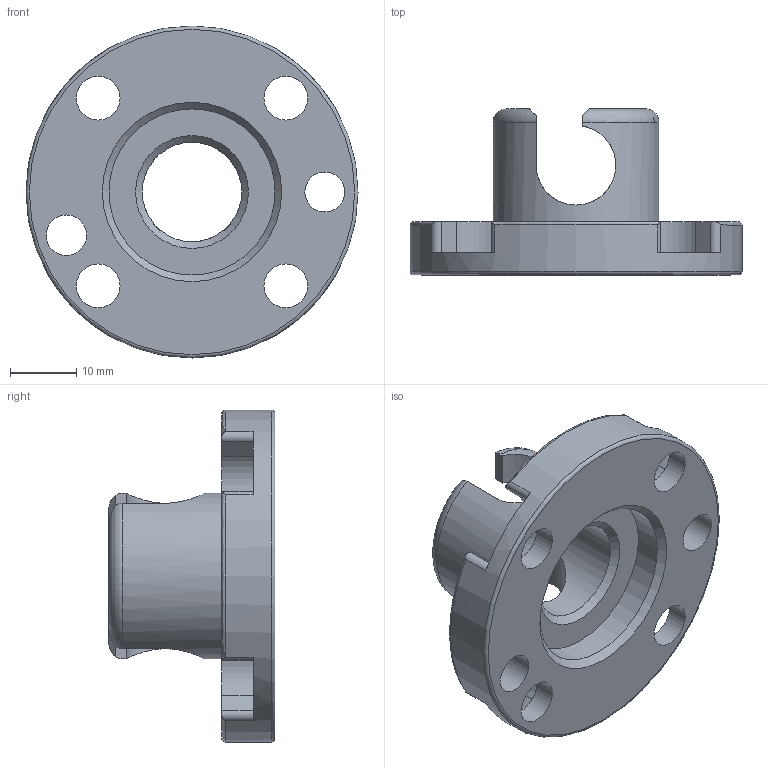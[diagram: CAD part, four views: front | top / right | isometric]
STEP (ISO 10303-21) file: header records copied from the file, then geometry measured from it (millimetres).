
FILE_DESCRIPTION(/* description */ (''),/* implementation_level */ '2;1');
FILE_NAME(/* name */ 'G-MGW050-2U.stp',/* time_stamp */ '2023-11-08T13:24:04+01:00',/* author */ ('ysplieth'),/* organization */ (''),/* preprocessor_version */ 'ST-DEVELOPER v20',/* originating_system */ 'Autodesk Inventor 2024',/* authorisation */ '');
FILE_SCHEMA (('AUTOMOTIVE_DESIGN { 1 0 10303 214 3 1 1 }'));
Length unit declared in the file: millimetre
Products named in the file (1): Bauteil7
Bounding box: 50 x 25 x 50 mm (x, y, z)
Volume: 13622.6 mm3; surface area: 7496.1 mm2
Topology: 1 solids, 1 shells, 60 faces, 167 edges, 110 vertices
Faces by surface type: plane 25, cylinder 24, torus 7, cone 4
Full cylindrical faces by diameter (mm): 6 x1, 6.1 x1, 6.6 x4, 15 x1, 25 x2, 50 x1
Entity records: 2298 total; most frequent: CARTESIAN_POINT 598, DIRECTION 336, ORIENTED_EDGE 334, EDGE_CURVE 167, AXIS2_PLACEMENT_3D 132, VERTEX_POINT 110, EDGE_LOOP 75, LINE 72
